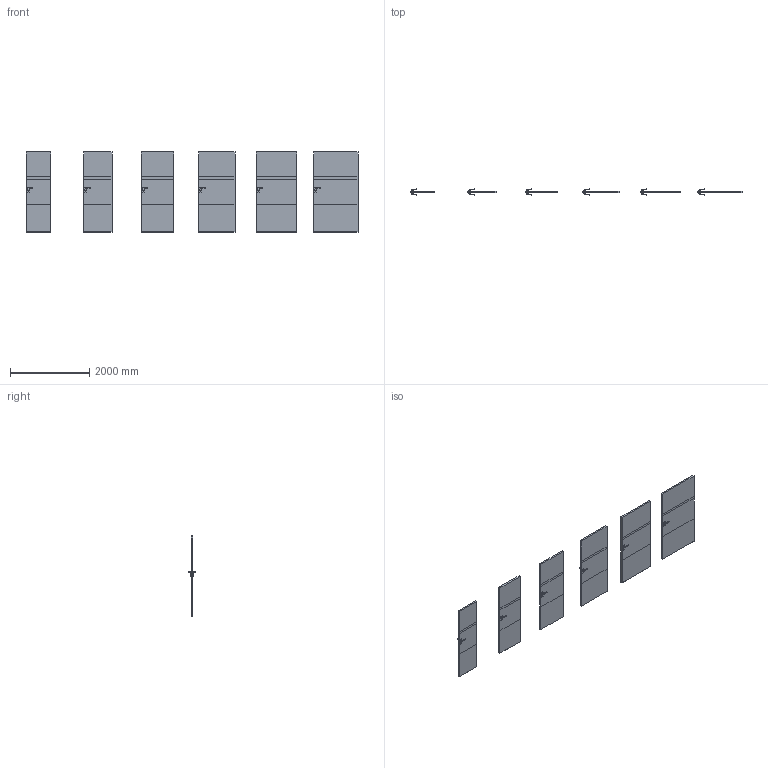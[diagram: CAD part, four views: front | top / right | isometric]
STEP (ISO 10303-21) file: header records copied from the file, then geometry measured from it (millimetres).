
FILE_DESCRIPTION(/* description */ (''),/* implementation_level */ '2;1');
FILE_NAME(/* name */ '049993_A_2-Skrzydło LEVEL model C.1_ polska norma _PN__ bezprzylgowe..stp',/* time_stamp */ '2024-12-04T10:43:38+01:00',/* author */ (''),/* organization */ (''),/* preprocessor_version */ 'ST-DEVELOPER v16',/* originating_system */ 'SIEMENS PLM Software NX 11.0',/* authorisation */ '');
FILE_SCHEMA (('AUTOMOTIVE_DESIGN { 1 0 10303 214 3 1 1 1 }'));
Length unit declared in the file: millimetre
Products named in the file (1): bkni80F4682Ayjnx
Bounding box: 8368 x 153.27 x 2017 mm (x, y, z)
Volume: 413459947.3 mm3; surface area: 25036959.3 mm2
Topology: 54 solids, 54 shells, 1200 faces, 2748 edges, 1536 vertices
Faces by surface type: plane 576, cylinder 264, bspline 192, sphere 168
Entity records: 39076 total; most frequent: CARTESIAN_POINT 13741, ORIENTED_EDGE 5160, DIRECTION 4958, EDGE_CURVE 2580, AXIS2_PLACEMENT_3D 1729, VERTEX_POINT 1536, LINE 1500, VECTOR 1500
